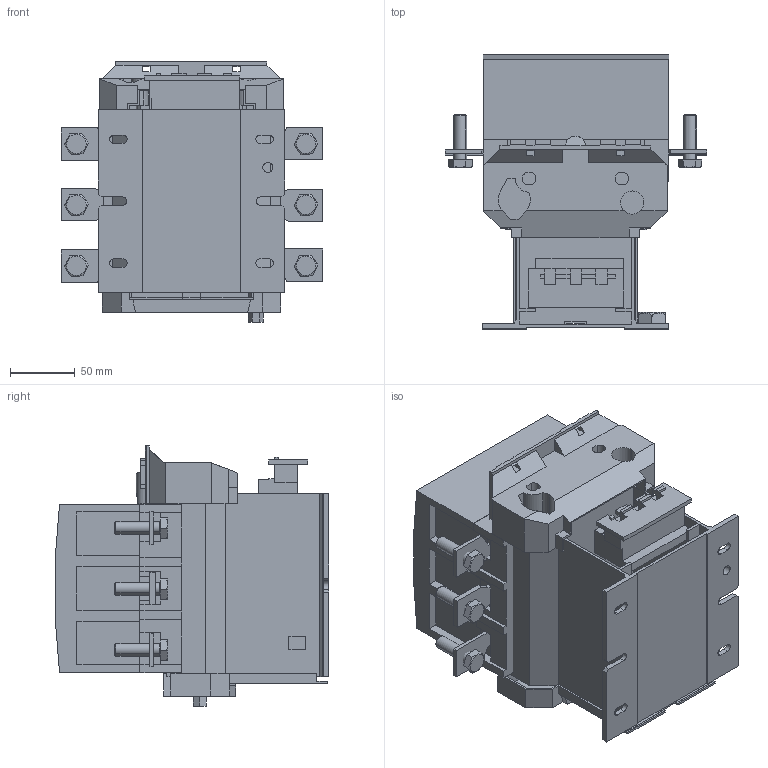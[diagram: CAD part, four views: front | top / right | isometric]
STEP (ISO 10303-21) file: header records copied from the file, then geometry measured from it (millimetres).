
FILE_DESCRIPTION (( 'STEP AP203' ), '1' );
FILE_NAME ('7100.STEP', '2013-11-27T07:17:30', ( 'admin' ), ( '' ), 'SwSTEP 2.0', 'SolidWorks 2007', '' );
FILE_SCHEMA (( 'CONFIG_CONTROL_DESIGN' ));
Length unit declared in the file: millimetre
Products named in the file (11): Êðûøêà_Ïî óìîë÷àíèþ; Ïåðåä_Ïî óìîë÷àíèþ; Áîëò Ì10õ35_Ïî óìîë÷àíèþ; Êë_Ïî óìîë÷àíèþ; 7100; Îñíîâà_Ïî óìîë÷àíèþ; ñåðäöåâèíà_Ïî óìîë÷àíèþ; ïåðåä íèç_Ïî óìîë÷àíèþ; Çàäíÿÿ êðû_Ïî óìîë÷àíèþ; øåñòèãðàíêà_Ïî óìîë÷àíèþ; Ë ï Êë_Ïî óìîë÷àíèþ
Assembly tree (19 placements, depth 2):
  7100
    ñåðäöåâèíà_Ïî óìîë÷àíèþ
    Ë ï Êë_Ïî óìîë÷àíèþ  x4
    Áîëò Ì10õ35_Ïî óìîë÷àíèþ  x6
    Êë_Ïî óìîë÷àíèþ  x2
    ïåðåä íèç_Ïî óìîë÷àíèþ
    Çàäíÿÿ êðû_Ïî óìîë÷àíèþ
    øåñòèãðàíêà_Ïî óìîë÷àíèþ
    Êðûøêà_Ïî óìîë÷àíèþ
    Ïåðåä_Ïî óìîë÷àíèþ
    Îñíîâà_Ïî óìîë÷àíèþ
Bounding box: 203 x 212.33 x 201.6 mm (x, y, z)
Volume: 2848025.3 mm3; surface area: 434727.3 mm2
Topology: 19 solids, 19 shells, 757 faces, 2042 edges, 1340 vertices
Faces by surface type: plane 609, cylinder 110, cone 24, torus 14
Entity records: 21501 total; most frequent: CARTESIAN_POINT 3888, ORIENTED_EDGE 3464, DIRECTION 3192, EDGE_CURVE 1732, VECTOR 1512, LINE 1512, VERTEX_POINT 1140, AXIS2_PLACEMENT_3D 840
